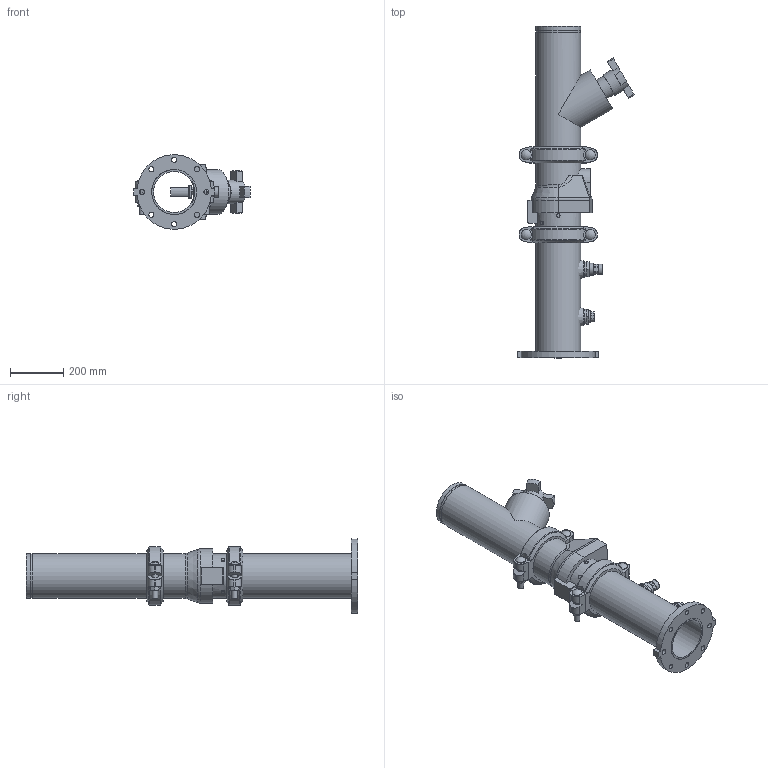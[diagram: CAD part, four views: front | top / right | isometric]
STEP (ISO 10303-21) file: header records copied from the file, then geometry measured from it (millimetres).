
FILE_DESCRIPTION(/* description */ ('VIC DVI PUMP DROP VERT S/383 (OGSxFLG) (S/924-0.75)','CAx-IF Rec.Pracs.---Representation and Presentation of Product Manufacturing Information (PMI)---4.0---2014-10-13'),/* implementation_level */ '2;1');
FILE_NAME(/* name */ 'C:\Users\Public\Documents\Victaulic.Temp\A849\Victaulic_IPS_Vertical DVI_CL 150_Series 383 (OGSxFLG)_924 (0.75)_06.0x06.0 (150x150).stp',/* time_stamp */ '2022-07-25T11:40:56+02:00',/* author */ ('Vjadhav'),/* organization */ ('Victaulic'),/* preprocessor_version */ 'ST-DEVELOPER v18',/* originating_system */ 'Autodesk Inventor 2020',/* authorisation */ '');
FILE_SCHEMA (('AP242_MANAGED_MODEL_BASED_3D_ENGINEERING_MIM_LF { 1 0 10303 442 1 1 4 }'));
Length unit declared in the file: inch
Products named in the file (8): 383_924 (0.75)-06.0x06.0; 741-06.0; Pipe-06.0x06.0; 177N-06.0; 789-06.0; 779-06.0; 924-04.0x0.75; 923-04.0x0.75
Assembly tree (8 placements, depth 2):
  383_924 (0.75)-06.0x06.0
    741-06.0
    Pipe-06.0x06.0
    177N-06.0  x2
    789-06.0
    779-06.0
    924-04.0x0.75
    923-04.0x0.75
Bounding box: 438.15 x 1243.08 x 278.34 mm (x, y, z)
Volume: 13128777.9 mm3; surface area: 1947307.5 mm2
Topology: 8 solids, 8 shells, 423 faces, 1116 edges, 750 vertices
Faces by surface type: plane 248, cylinder 142, torus 14, cone 13, sphere 4, bspline 2
Full cylindrical faces by diameter (mm): 13.716 x4, 19.05 x8, 21.209 x4, 26.67 x2, 37.694 x4, 38.608 x1, 45.974 x4, 55.626 x2, 79.375 x1, 88.9 x1, 154.051 x3, 155.575 x2, 163.957 x6, 168.275 x16
Entity records: 11623 total; most frequent: CARTESIAN_POINT 2413, DIRECTION 1898, ORIENTED_EDGE 1726, EDGE_CURVE 863, AXIS2_PLACEMENT_3D 719, VERTEX_POINT 582, LINE 460, VECTOR 460
